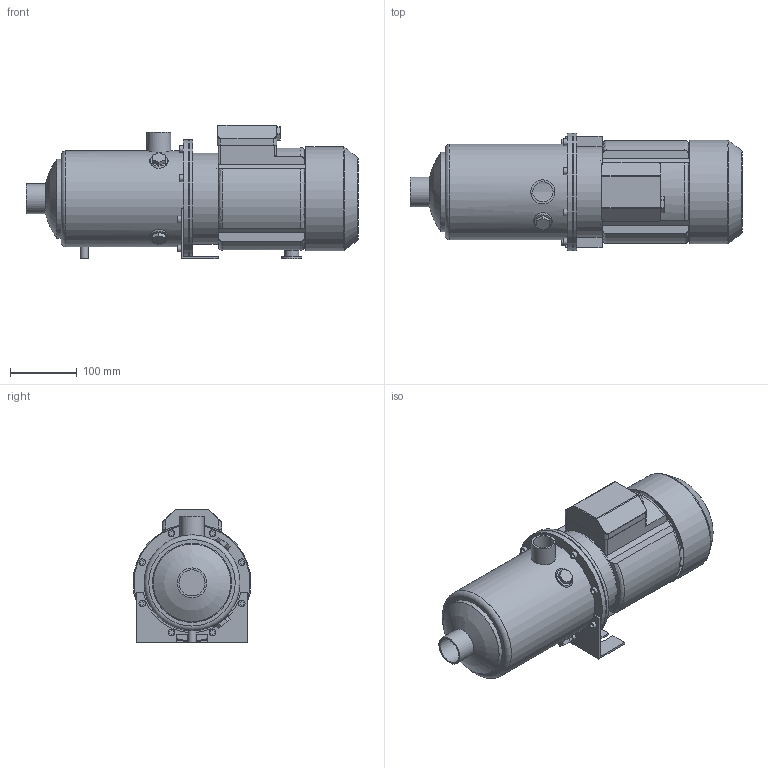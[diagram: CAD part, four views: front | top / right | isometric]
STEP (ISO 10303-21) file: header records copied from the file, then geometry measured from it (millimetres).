
FILE_DESCRIPTION(/* description */ ('Unknown'),/* implementation_level */ '2;1');
FILE_NAME(/* name */ 'MH 3 [7] T',/* time_stamp */ '2026-07-10T14:54:26+02:00',/* author */ ('Unknown'),/* organization */ ('Unknown'),/* preprocessor_version */ 'ST-DEVELOPER v20',/* originating_system */ 'Solid Edge',/* authorisation */ 'Unknown');
FILE_SCHEMA (('AUTOMOTIVE_DESIGN {1 0 10303 214 3 1 1}'));
Length unit declared in the file: millimetre
Products named in the file (10): MH 3 [7] T; Flangia motore Tonda M80; Corpo MH 3-5 [7]; Mot_Wendy_MEC80_11-15_T; carcassa MEC 80-Wendy; Copriventola MEC 80-Wendy; Basetta MEC 80 T-Wendy_new; Piedino MEC 80 int.90; Staffa 3-5-9 int.90
Assembly tree (8 placements, depth 3):
  MH 3 [7] T
    Flangia motore Tonda M80
    Corpo MH 3-5 [7]
    Mot_Wendy_MEC80_11-15_T
      carcassa MEC 80-Wendy
      Copriventola MEC 80-Wendy
      Basetta MEC 80 T-Wendy_new
    Piedino MEC 80 int.90
    Staffa 3-5-9 int.90
  (unnamed)
Bounding box: 497.1 x 176.5 x 200.5 mm (x, y, z)
Volume: 2083893.8 mm3; surface area: 611168.4 mm2
Topology: 8 solids, 8 shells, 278 faces, 651 edges, 432 vertices
Faces by surface type: plane 164, cylinder 75, torus 19, cone 14, bspline 4, sphere 2
Full cylindrical faces by diameter (mm): 7 x4, 10 x9, 12 x1, 13.5 x1, 17.5 x1, 21 x1, 30 x1, 30.291 x1, 36 x1, 38.952 x1, 44.5 x1, 116.1 x1, 118.5 x1, 125 x1, 130 x3, 134 x1, 136 x1, 141.1 x1, 143.5 x1, 153.5 x1, 155.5 x1, 173.5 x1, 174.1 x1, 176.5 x2
Entity records: 8922 total; most frequent: CARTESIAN_POINT 1612, DIRECTION 1268, ORIENTED_EDGE 1122, EDGE_CURVE 561, AXIS2_PLACEMENT_3D 464, VERTEX_POINT 400, EDGE_LOOP 389, FACE_BOUND 389
